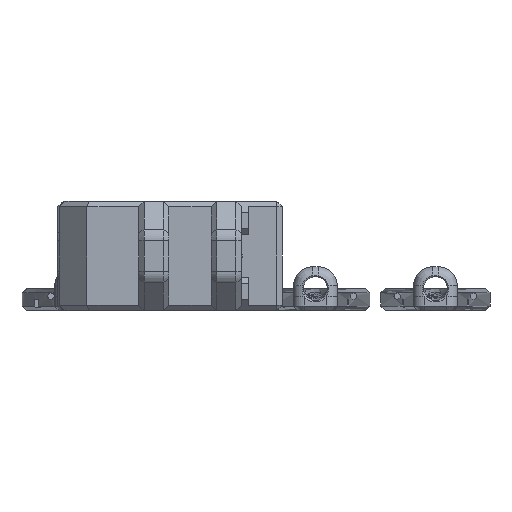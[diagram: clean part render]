
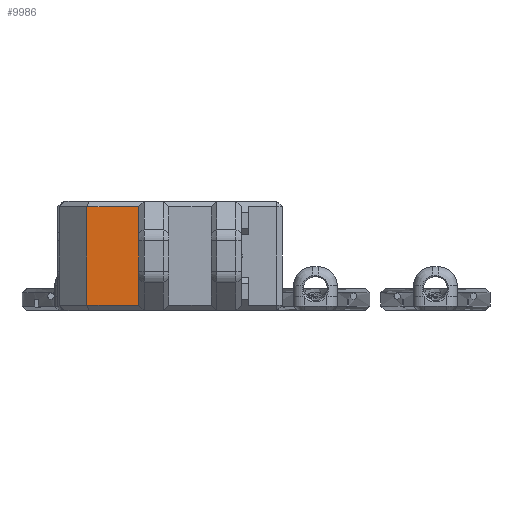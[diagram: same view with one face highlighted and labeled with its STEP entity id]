
A CAD part, front view. The second image highlights one B-rep face of the part: STEP entity #9986.
In plain terms, the highlighted planar face has unit normal (0, -1, 0).
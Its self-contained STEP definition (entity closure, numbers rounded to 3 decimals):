
#864=PLANE('',#10856);
#1454=FACE_OUTER_BOUND('',#2055,.T.);
#2055=EDGE_LOOP('',(#9286,#9287,#9288,#9289));
#3011=LINE('',#21677,#3993);
#3012=LINE('',#21680,#3994);
#3013=LINE('',#21682,#3995);
#3014=LINE('',#21683,#3996);
#3993=VECTOR('',#13289,10.);
#3994=VECTOR('',#13292,10.);
#3995=VECTOR('',#13293,10.);
#3996=VECTOR('',#13294,10.);
#5082=VERTEX_POINT('',#21659);
#5085=VERTEX_POINT('',#21671);
#5087=VERTEX_POINT('',#21679);
#5088=VERTEX_POINT('',#21681);
#6493=EDGE_CURVE('',#5082,#5085,#3011,.T.);
#6494=EDGE_CURVE('',#5085,#5087,#3012,.T.);
#6495=EDGE_CURVE('',#5088,#5082,#3013,.T.);
#6496=EDGE_CURVE('',#5087,#5088,#3014,.T.);
#9286=ORIENTED_EDGE('',*,*,#6494,.F.);
#9287=ORIENTED_EDGE('',*,*,#6493,.F.);
#9288=ORIENTED_EDGE('',*,*,#6495,.F.);
#9289=ORIENTED_EDGE('',*,*,#6496,.F.);
#9986=ADVANCED_FACE('',(#1454),#864,.F.);
#10856=AXIS2_PLACEMENT_3D('',#21678,#13290,#13291);
#13289=DIRECTION('',(0.,0.,1.));
#13290=DIRECTION('center_axis',(0.,1.,0.));
#13291=DIRECTION('ref_axis',(0.,0.,1.));
#13292=DIRECTION('',(1.,0.,0.));
#13293=DIRECTION('',(-1.,0.,0.));
#13294=DIRECTION('',(0.,0.,-1.));
#21659=CARTESIAN_POINT('',(-236.944,232.802,1.002));
#21671=CARTESIAN_POINT('',(-236.944,232.802,19.002));
#21677=CARTESIAN_POINT('',(-236.944,232.802,10.002));
#21678=CARTESIAN_POINT('Origin',(-225.944,232.802,10.002));
#21679=CARTESIAN_POINT('',(-227.444,232.802,19.002));
#21680=CARTESIAN_POINT('',(-221.444,232.802,19.002));
#21681=CARTESIAN_POINT('',(-227.444,232.802,1.002));
#21682=CARTESIAN_POINT('',(-230.444,232.802,1.002));
#21683=CARTESIAN_POINT('',(-227.444,232.802,15.002));
